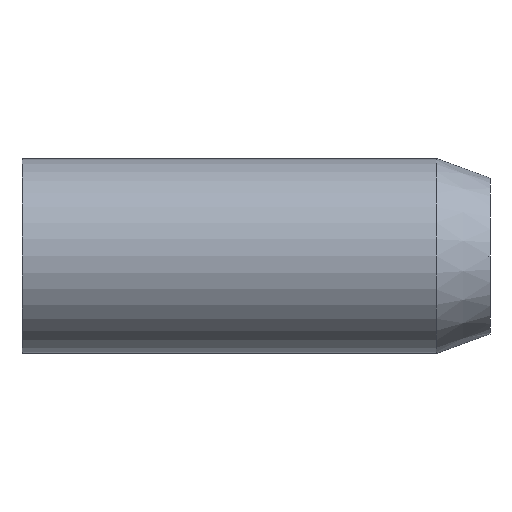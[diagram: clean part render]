
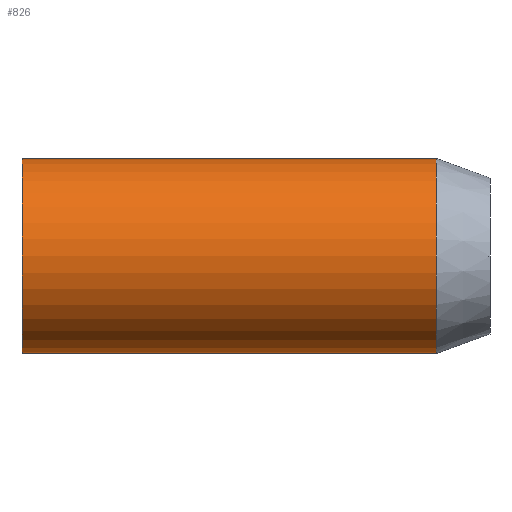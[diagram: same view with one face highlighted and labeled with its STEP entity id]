
A CAD part, left-side view. The second image highlights one B-rep face of the part: STEP entity #826.
In plain terms, the highlighted cylindrical face has radius 2.5 mm (diameter 5 mm), a partial arc.
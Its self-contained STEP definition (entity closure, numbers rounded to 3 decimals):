
#56 = CARTESIAN_POINT ( 'NONE',  ( 0., -4.626, 2.5 ) ) ;
#161 = DIRECTION ( 'NONE',  ( 0., 0., -1. ) ) ;
#162 = DIRECTION ( 'NONE',  ( 0., -1., 0. ) ) ;
#163 = AXIS2_PLACEMENT_3D ( 'NONE', #165, #162, #161 ) ;
#164 = CARTESIAN_POINT ( 'NONE',  ( 0., -4.626, -2.5 ) ) ;
#165 = CARTESIAN_POINT ( 'NONE',  ( 0., 6., 0. ) ) ;
#166 = CYLINDRICAL_SURFACE ( 'NONE', #163, 2.5 ) ;
#167 = FACE_OUTER_BOUND ( 'NONE', #827, .T. ) ;
#173 = DIRECTION ( 'NONE',  ( 0., 0., 1. ) ) ;
#174 = DIRECTION ( 'NONE',  ( 0., 1., 0. ) ) ;
#175 = CARTESIAN_POINT ( 'NONE',  ( 0., -4.626, 0. ) ) ;
#176 = AXIS2_PLACEMENT_3D ( 'NONE', #175, #174, #173 ) ;
#177 = CIRCLE ( 'NONE', #176, 2.5 ) ;
#179 = DIRECTION ( 'NONE',  ( 0., 0., 1. ) ) ;
#180 = DIRECTION ( 'NONE',  ( 0., 1., 0. ) ) ;
#181 = CARTESIAN_POINT ( 'NONE',  ( 0., 6., 0. ) ) ;
#182 = AXIS2_PLACEMENT_3D ( 'NONE', #181, #180, #179 ) ;
#183 = CIRCLE ( 'NONE', #182, 2.5 ) ;
#212 = DIRECTION ( 'NONE',  ( 0., -1., 0. ) ) ;
#213 = VECTOR ( 'NONE', #212, 1000. ) ;
#214 = CARTESIAN_POINT ( 'NONE',  ( 0., 6., -2.5 ) ) ;
#215 = LINE ( 'NONE', #214, #213 ) ;
#216 = DIRECTION ( 'NONE',  ( 0., -1., 0. ) ) ;
#217 = VECTOR ( 'NONE', #216, 1000. ) ;
#218 = CARTESIAN_POINT ( 'NONE',  ( 0., 6., 2.5 ) ) ;
#219 = LINE ( 'NONE', #218, #217 ) ;
#220 = CARTESIAN_POINT ( 'NONE',  ( 0., 6., -2.5 ) ) ;
#221 = CARTESIAN_POINT ( 'NONE',  ( 0., 6., 2.5 ) ) ;
#803 = VERTEX_POINT ( 'NONE', #221 ) ;
#804 = VERTEX_POINT ( 'NONE', #220 ) ;
#806 = EDGE_CURVE ( 'NONE', #803, #832, #219, .T. ) ;
#809 = EDGE_CURVE ( 'NONE', #804, #829, #215, .T. ) ;
#819 = ORIENTED_EDGE ( 'NONE', *, *, #820, .F. ) ;
#820 = EDGE_CURVE ( 'NONE', #804, #803, #183, .T. ) ;
#821 = ORIENTED_EDGE ( 'NONE', *, *, #809, .T. ) ;
#822 = ORIENTED_EDGE ( 'NONE', *, *, #823, .T. ) ;
#823 = EDGE_CURVE ( 'NONE', #829, #832, #177, .T. ) ;
#826 = ADVANCED_FACE ( 'NONE', ( #167 ), #166, .T. ) ;
#827 = EDGE_LOOP ( 'NONE', ( #828, #819, #821, #822 ) ) ;
#828 = ORIENTED_EDGE ( 'NONE', *, *, #806, .F. ) ;
#829 = VERTEX_POINT ( 'NONE', #164 ) ;
#832 = VERTEX_POINT ( 'NONE', #56 ) ;
